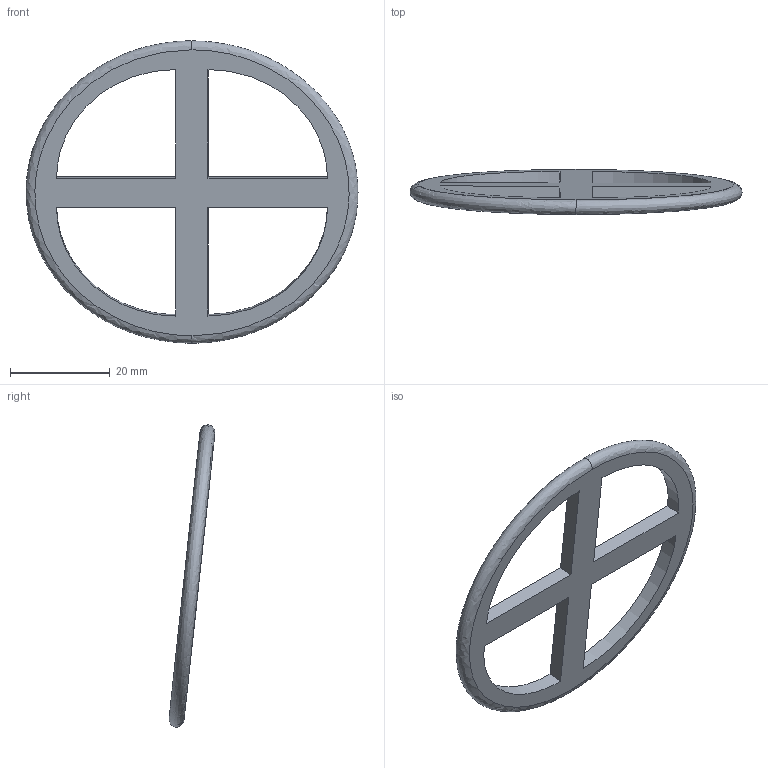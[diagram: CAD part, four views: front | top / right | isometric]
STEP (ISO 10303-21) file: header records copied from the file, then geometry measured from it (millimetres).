
FILE_DESCRIPTION(/* description */ (''),/* implementation_level */ '2;1');
FILE_NAME(/* name */ 'L-MEDI~3',/* time_stamp */ '2020-04-10T21:44:11+03:00',/* author */ (''),/* organization */ (''),/* preprocessor_version */ 'ST-DEVELOPER v16.5',/* originating_system */ '',/* authorisation */ '');
FILE_SCHEMA (('AUTOMOTIVE_DESIGN'));
Length unit declared in the file: millimetre
Products named in the file (1): Document
Bounding box: 66.73 x 9.2 x 60.75 mm (x, y, z)
Volume: 4418.7 mm3; surface area: 4401.1 mm2
Topology: 1 solids, 1 shells, 18 faces, 46 edges, 30 vertices
Faces by surface type: plane 10, bspline 8
Entity records: 1332 total; most frequent: CARTESIAN_POINT 1006, ORIENTED_EDGE 92, EDGE_CURVE 46, VERTEX_POINT 30, EDGE_LOOP 26, B_SPLINE_CURVE_WITH_KNOTS 24, ADVANCED_FACE 18, FACE_OUTER_BOUND 18
